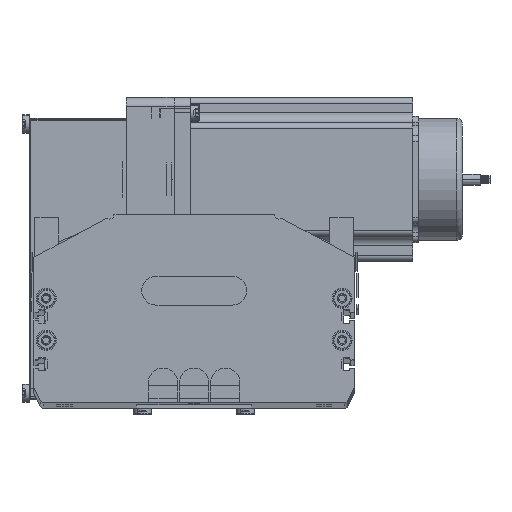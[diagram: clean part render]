
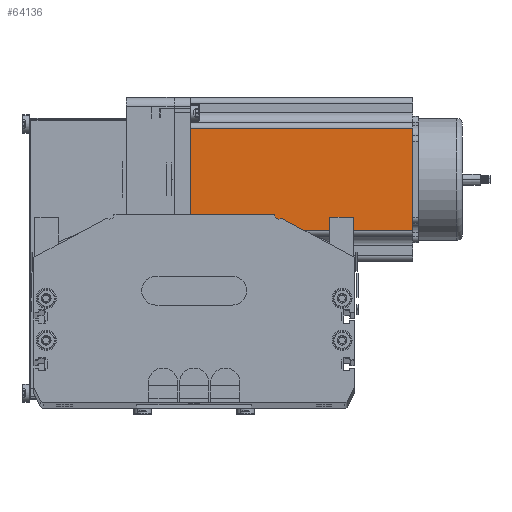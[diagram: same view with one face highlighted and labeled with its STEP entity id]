
A CAD part, top view. The second image highlights one B-rep face of the part: STEP entity #64136.
In plain terms, the highlighted planar face has unit normal (0, 0, 1) as drawn and (0, -1, 0) by its records, which use the part's own axes.
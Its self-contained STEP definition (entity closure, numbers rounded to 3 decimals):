
#64085 = VERTEX_POINT ( 'NONE', #75224 ) ;
#64089 = EDGE_CURVE ( 'NONE', #64258, #64259, #75150, .T. ) ;
#64095 = EDGE_LOOP ( 'NONE', ( #64248, #64137, #64138, #64142 ) ) ;
#64135 = EDGE_CURVE ( 'NONE', #64085, #64258, #75524, .T. ) ;
#64136 = ADVANCED_FACE ( 'NONE', ( #75515 ), #75528, .F. ) ;
#64137 = ORIENTED_EDGE ( 'NONE', *, *, #64089, .T. ) ;
#64138 = ORIENTED_EDGE ( 'NONE', *, *, #64139, .F. ) ;
#64139 = EDGE_CURVE ( 'NONE', #64140, #64259, #75530, .T. ) ;
#64140 = VERTEX_POINT ( 'NONE', #75486 ) ;
#64141 = EDGE_CURVE ( 'NONE', #64140, #64085, #75481, .T. ) ;
#64142 = ORIENTED_EDGE ( 'NONE', *, *, #64141, .T. ) ;
#64248 = ORIENTED_EDGE ( 'NONE', *, *, #64135, .T. ) ;
#64258 = VERTEX_POINT ( 'NONE', #75899 ) ;
#64259 = VERTEX_POINT ( 'NONE', #76071 ) ;
#75142 = DIRECTION ( 'NONE',  ( 0., 0., 1. ) ) ;
#75144 = VECTOR ( 'NONE', #75142, 1000. ) ;
#75147 = CARTESIAN_POINT ( 'NONE',  ( 69.74, 0., 116.5 ) ) ;
#75150 = LINE ( 'NONE', #75147, #75144 ) ;
#75224 = CARTESIAN_POINT ( 'NONE',  ( 16.16, 0., 0. ) ) ;
#75465 = DIRECTION ( 'NONE',  ( 0., 0., -1. ) ) ;
#75466 = VECTOR ( 'NONE', #75465, 1000. ) ;
#75467 = CARTESIAN_POINT ( 'NONE',  ( 16.16, 0., 116.5 ) ) ;
#75476 = DIRECTION ( 'NONE',  ( 1., 0., 0. ) ) ;
#75477 = VECTOR ( 'NONE', #75476, 1000. ) ;
#75480 = CARTESIAN_POINT ( 'NONE',  ( 0., 0., 116.5 ) ) ;
#75481 = LINE ( 'NONE', #75467, #75466 ) ;
#75486 = CARTESIAN_POINT ( 'NONE',  ( 16.16, 0., 116.5 ) ) ;
#75493 = DIRECTION ( 'NONE',  ( 0., 0., 1. ) ) ;
#75495 = DIRECTION ( 'NONE',  ( 0., 1., 0. ) ) ;
#75498 = CARTESIAN_POINT ( 'NONE',  ( 0., 0., 116.5 ) ) ;
#75501 = AXIS2_PLACEMENT_3D ( 'NONE', #75498, #75495, #75493 ) ;
#75515 = FACE_OUTER_BOUND ( 'NONE', #64095, .T. ) ;
#75518 = DIRECTION ( 'NONE',  ( 1., 0., 0. ) ) ;
#75520 = VECTOR ( 'NONE', #75518, 1000. ) ;
#75522 = CARTESIAN_POINT ( 'NONE',  ( 0., 0., 0. ) ) ;
#75524 = LINE ( 'NONE', #75522, #75520 ) ;
#75528 = PLANE ( 'NONE',  #75501 ) ;
#75530 = LINE ( 'NONE', #75480, #75477 ) ;
#75899 = CARTESIAN_POINT ( 'NONE',  ( 69.74, 0., 0. ) ) ;
#76071 = CARTESIAN_POINT ( 'NONE',  ( 69.74, 0., 116.5 ) ) ;
